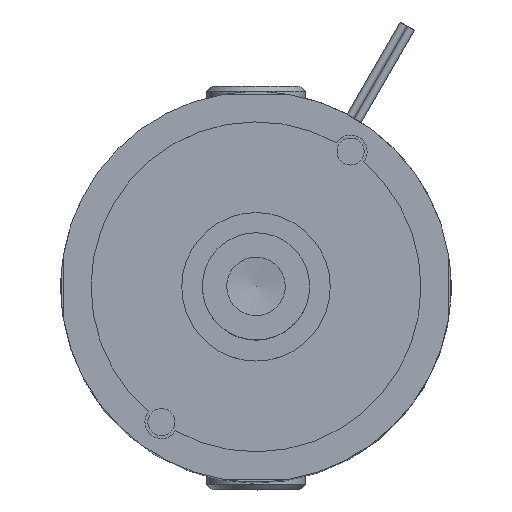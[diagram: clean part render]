
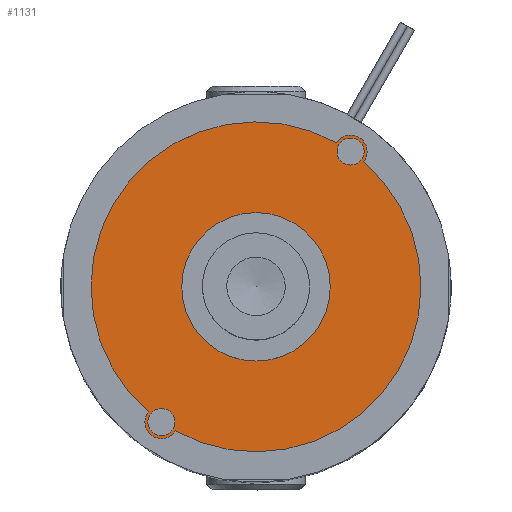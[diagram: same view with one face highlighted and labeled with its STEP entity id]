
A CAD part, top view. The second image highlights one B-rep face of the part: STEP entity #1131.
In plain terms, the highlighted planar face has unit normal (0, 0, 1).
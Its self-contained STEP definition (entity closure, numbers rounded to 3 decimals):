
#975=CARTESIAN_POINT('',(19.659,24.6,3.5));
#976=VERTEX_POINT('',#975);
#977=CARTESIAN_POINT('',(17.2,24.6,3.5));
#978=DIRECTION('',(0.0,0.0,-1.0));
#979=DIRECTION('',(1.0,0.0,0.0));
#980=AXIS2_PLACEMENT_3D('',#977,#978,#979);
#981=CIRCLE('',#980,2.459);
#982=EDGE_CURVE('',#976,#976,#981,.T.);
#995=CARTESIAN_POINT('',(-14.741,-24.6,3.5));
#996=VERTEX_POINT('',#995);
#997=CARTESIAN_POINT('',(-17.2,-24.6,3.5));
#998=DIRECTION('',(0.0,0.0,-1.0));
#999=DIRECTION('',(1.0,0.0,0.0));
#1000=AXIS2_PLACEMENT_3D('',#997,#998,#999);
#1001=CIRCLE('',#1000,2.459);
#1002=EDGE_CURVE('',#996,#996,#1001,.T.);
#1014=CARTESIAN_POINT('',(19.559,22.747,3.5));
#1015=VERTEX_POINT('',#1014);
#1031=CARTESIAN_POINT('',(14.65,26.18,3.5));
#1032=VERTEX_POINT('',#1031);
#1039=CARTESIAN_POINT('',(17.2,24.6,3.5));
#1040=DIRECTION('',(0.0,0.0,-1.0));
#1041=DIRECTION('',(-1.0,0.0,0.0));
#1042=AXIS2_PLACEMENT_3D('',#1039,#1040,#1041);
#1043=CIRCLE('',#1042,3.0);
#1044=EDGE_CURVE('',#1032,#1015,#1043,.T.);
#1054=CARTESIAN_POINT('',(-14.65,-26.18,3.5));
#1055=VERTEX_POINT('',#1054);
#1064=CARTESIAN_POINT('',(-19.559,-22.747,3.5));
#1065=VERTEX_POINT('',#1064);
#1066=CARTESIAN_POINT('',(-17.2,-24.6,3.5));
#1067=DIRECTION('',(0.0,0.0,-1.0));
#1068=DIRECTION('',(-1.0,0.0,0.0));
#1069=AXIS2_PLACEMENT_3D('',#1066,#1067,#1068);
#1070=CIRCLE('',#1069,3.0);
#1071=EDGE_CURVE('',#1055,#1065,#1070,.T.);
#1091=CARTESIAN_POINT('',(0.,0.,3.5));
#1092=DIRECTION('',(0.0,0.0,1.0));
#1093=DIRECTION('',(1.0,0.0,0.0));
#1094=AXIS2_PLACEMENT_3D('',#1091,#1092,#1093);
#1095=PLANE('',#1094);
#1096=CARTESIAN_POINT('',(0.0,0.0,3.5));
#1097=DIRECTION('',(0.0,0.0,-1.0));
#1098=DIRECTION('',(-1.0,0.0,0.0));
#1099=AXIS2_PLACEMENT_3D('',#1096,#1097,#1098);
#1100=CIRCLE('',#1099,30.0);
#1101=EDGE_CURVE('',#1065,#1032,#1100,.T.);
#1102=ORIENTED_EDGE('',*,*,#1101,.F.);
#1103=ORIENTED_EDGE('',*,*,#1071,.F.);
#1104=CARTESIAN_POINT('',(0.0,0.0,3.5));
#1105=DIRECTION('',(0.0,0.0,-1.0));
#1106=DIRECTION('',(-1.0,0.0,0.0));
#1107=AXIS2_PLACEMENT_3D('',#1104,#1105,#1106);
#1108=CIRCLE('',#1107,30.0);
#1109=EDGE_CURVE('',#1015,#1055,#1108,.T.);
#1110=ORIENTED_EDGE('',*,*,#1109,.F.);
#1111=ORIENTED_EDGE('',*,*,#1044,.F.);
#1112=EDGE_LOOP('',(#1102,#1103,#1110,#1111));
#1113=FACE_OUTER_BOUND('',#1112,.T.);
#1114=ORIENTED_EDGE('',*,*,#982,.T.);
#1115=EDGE_LOOP('',(#1114));
#1116=FACE_BOUND('',#1115,.T.);
#1117=ORIENTED_EDGE('',*,*,#1002,.T.);
#1118=EDGE_LOOP('',(#1117));
#1119=FACE_BOUND('',#1118,.T.);
#1120=CARTESIAN_POINT('',(13.5,0.,3.5));
#1121=VERTEX_POINT('',#1120);
#1122=CARTESIAN_POINT('',(0.0,0.0,3.5));
#1123=DIRECTION('',(0.0,0.0,1.0));
#1124=DIRECTION('',(-1.0,0.0,0.0));
#1125=AXIS2_PLACEMENT_3D('',#1122,#1123,#1124);
#1126=CIRCLE('',#1125,13.5);
#1127=EDGE_CURVE('',#1121,#1121,#1126,.T.);
#1128=ORIENTED_EDGE('',*,*,#1127,.F.);
#1129=EDGE_LOOP('',(#1128));
#1130=FACE_BOUND('',#1129,.T.);
#1131=ADVANCED_FACE('',(#1113,#1116,#1119,#1130),#1095,.T.);
